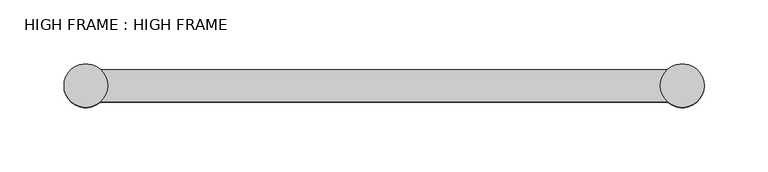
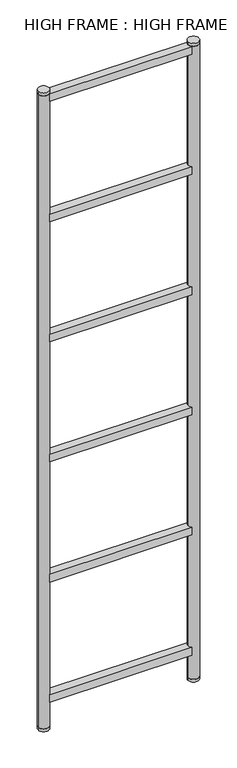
"""IFC4 building model written with IfcOpenShell, lengths in millimetres: furniture geometry, HIGH FRAME : HIGH FRAME."""

from ifc_helpers import new_model, si_unit, point, frame, frame_2d, origin, origin_with_axes, place, context, project, spatial, polyline, circle_curve, trimmed, segment, composite_curve, outline, extrude, source, transform, mapped, element, save


def high_frame_high_frame_5bb0b036(model_context):
    return source(origin(), model_context, "Body", "SweptSolid", [
        extrude(outline(composite_curve([segment(polyline([(224.9782814, -12.5), (-217.9782814, -12.5)]), True, "CONTINUOUS"), segment(trimmed(circle_curve(frame_2d((-229.5, 0.0)), 17.0), [point((-217.9782814, -12.5))], [point((-217.9782814, 12.5))], True, "CARTESIAN"), True, "CONTINUOUS"), segment(polyline([(-217.9782814, 12.5), (224.9782814, 12.5)]), True, "CONTINUOUS"), segment(trimmed(circle_curve(frame_2d((236.5, 0.0)), 17.0), [point((224.9782814, 12.5))], [point((224.9782814, -12.5))], True, "CARTESIAN"), True, "CONTINUOUS")], self_intersect=False)), frame((0.0, 0.0, 2064.0), z_axis=(0.0, 0.0, 1.0), x_axis=(1.0, 0.0, 0.0)), (0.0, 0.0, 1.0), 25.0),
        extrude(outline(composite_curve([segment(polyline([(224.9782814, -12.5), (-217.9782814, -12.5)]), True, "CONTINUOUS"), segment(trimmed(circle_curve(frame_2d((-229.5, 0.0)), 17.0), [point((-217.9782814, -12.5))], [point((-217.9782814, 12.5))], True, "CARTESIAN"), True, "CONTINUOUS"), segment(polyline([(-217.9782814, 12.5), (224.9782814, 12.5)]), True, "CONTINUOUS"), segment(trimmed(circle_curve(frame_2d((236.5, 0.0)), 17.0), [point((224.9782814, 12.5))], [point((224.9782814, -12.5))], True, "CARTESIAN"), True, "CONTINUOUS")], self_intersect=False)), frame((0.0, 0.0, 1669.0), z_axis=(0.0, 0.0, 1.0), x_axis=(1.0, 0.0, 0.0)), (0.0, 0.0, 1.0), 25.0),
        extrude(outline(composite_curve([segment(polyline([(224.9782814, -12.5), (-217.9782814, -12.5)]), True, "CONTINUOUS"), segment(trimmed(circle_curve(frame_2d((-229.5, 0.0)), 17.0), [point((-217.9782814, -12.5))], [point((-217.9782814, 12.5))], True, "CARTESIAN"), True, "CONTINUOUS"), segment(polyline([(-217.9782814, 12.5), (224.9782814, 12.5)]), True, "CONTINUOUS"), segment(trimmed(circle_curve(frame_2d((236.5, 0.0)), 17.0), [point((224.9782814, 12.5))], [point((224.9782814, -12.5))], True, "CARTESIAN"), True, "CONTINUOUS")], self_intersect=False)), frame((0.0, 0.0, 1274.0), z_axis=(0.0, 0.0, 1.0), x_axis=(1.0, 0.0, 0.0)), (0.0, 0.0, 1.0), 25.0),
        extrude(outline(composite_curve([segment(polyline([(224.9782814, -12.5), (-217.9782814, -12.5)]), True, "CONTINUOUS"), segment(trimmed(circle_curve(frame_2d((-229.5, 0.0)), 17.0), [point((-217.9782814, -12.5))], [point((-217.9782814, 12.5))], True, "CARTESIAN"), True, "CONTINUOUS"), segment(polyline([(-217.9782814, 12.5), (224.9782814, 12.5)]), True, "CONTINUOUS"), segment(trimmed(circle_curve(frame_2d((236.5, 0.0)), 17.0), [point((224.9782814, 12.5))], [point((224.9782814, -12.5))], True, "CARTESIAN"), True, "CONTINUOUS")], self_intersect=False)), frame((0.0, 0.0, 879.0), z_axis=(0.0, 0.0, 1.0), x_axis=(1.0, 0.0, 0.0)), (0.0, 0.0, 1.0), 25.0),
        extrude(outline(composite_curve([segment(polyline([(224.9782814, -12.5), (-217.9782814, -12.5)]), True, "CONTINUOUS"), segment(trimmed(circle_curve(frame_2d((-229.5, 0.0)), 17.0), [point((-217.9782814, -12.5))], [point((-217.9782814, 12.5))], True, "CARTESIAN"), True, "CONTINUOUS"), segment(polyline([(-217.9782814, 12.5), (224.9782814, 12.5)]), True, "CONTINUOUS"), segment(trimmed(circle_curve(frame_2d((236.5, 0.0)), 17.0), [point((224.9782814, 12.5))], [point((224.9782814, -12.5))], True, "CARTESIAN"), True, "CONTINUOUS")], self_intersect=False)), frame((0.0, 0.0, 484.0), z_axis=(0.0, 0.0, 1.0), x_axis=(1.0, 0.0, 0.0)), (0.0, 0.0, 1.0), 25.0),
        extrude(outline(composite_curve([segment(polyline([(224.9782814, -12.5), (-217.9782814, -12.5)]), True, "CONTINUOUS"), segment(trimmed(circle_curve(frame_2d((-229.5, 0.0)), 17.0), [point((-217.9782814, -12.5))], [point((-217.9782814, 12.5))], True, "CARTESIAN"), True, "CONTINUOUS"), segment(polyline([(-217.9782814, 12.5), (224.9782814, 12.5)]), True, "CONTINUOUS"), segment(trimmed(circle_curve(frame_2d((236.5, 0.0)), 17.0), [point((224.9782814, 12.5))], [point((224.9782814, -12.5))], True, "CARTESIAN"), True, "CONTINUOUS")], self_intersect=False)), frame((0.0, 0.0, 89.0), z_axis=(0.0, 0.0, 1.0), x_axis=(1.0, 0.0, 0.0)), (0.0, 0.0, 1.0), 25.0),
        extrude(outline(composite_curve([segment(trimmed(circle_curve(frame_2d((-229.5, 0.0)), 17.0), [point((-212.5, 0.0))], [point((-246.5, 0.0))], False, "CARTESIAN"), True, "CONTINUOUS"), segment(trimmed(circle_curve(frame_2d((-229.5, 0.0)), 17.0), [point((-246.5, 0.0))], [point((-212.5, 0.0))], False, "CARTESIAN"), True, "CONTINUOUS")], self_intersect=False)), frame((0.0, 0.0, 2091.0), z_axis=(0.0, 0.0, 1.0), x_axis=(1.0, 0.0, 0.0)), (0.0, 0.0, 1.0), 9.0),
        extrude(outline(composite_curve([segment(trimmed(circle_curve(frame_2d((-229.5, 0.0)), 17.0), [point((-212.5, 0.0))], [point((-246.5, 0.0))], False, "CARTESIAN"), True, "CONTINUOUS"), segment(trimmed(circle_curve(frame_2d((-229.5, 0.0)), 17.0), [point((-246.5, 0.0))], [point((-212.5, 0.0))], False, "CARTESIAN"), True, "CONTINUOUS")], self_intersect=False)), origin_with_axes(), (0.0, 0.0, 1.0), 9.0),
        extrude(outline(composite_curve([segment(trimmed(circle_curve(frame_2d((-229.5, 0.0)), 17.0), [point((-212.5, 0.0))], [point((-246.5, 0.0))], False, "CARTESIAN"), True, "CONTINUOUS"), segment(trimmed(circle_curve(frame_2d((-229.5, 0.0)), 17.0), [point((-246.5, 0.0))], [point((-212.5, 0.0))], False, "CARTESIAN"), True, "CONTINUOUS")], self_intersect=False)), frame((0.0, 0.0, 9.0), z_axis=(0.0, 0.0, 1.0), x_axis=(1.0, 0.0, 0.0)), (0.0, 0.0, 1.0), 2082.0),
        extrude(outline(composite_curve([segment(trimmed(circle_curve(frame_2d((236.5, 0.0)), 17.0), [point((219.5, 0.0))], [point((253.5, 0.0))], False, "CARTESIAN"), True, "CONTINUOUS"), segment(trimmed(circle_curve(frame_2d((236.5, 0.0)), 17.0), [point((253.5, 0.0))], [point((219.5, 0.0))], False, "CARTESIAN"), True, "CONTINUOUS")], self_intersect=False)), frame((0.0, 0.0, 2091.0), z_axis=(0.0, 0.0, 1.0), x_axis=(1.0, 0.0, 0.0)), (0.0, 0.0, 1.0), 9.0),
        extrude(outline(composite_curve([segment(trimmed(circle_curve(frame_2d((236.5, 0.0)), 17.0), [point((219.5, 0.0))], [point((253.5, 0.0))], False, "CARTESIAN"), True, "CONTINUOUS"), segment(trimmed(circle_curve(frame_2d((236.5, 0.0)), 17.0), [point((253.5, 0.0))], [point((219.5, 0.0))], False, "CARTESIAN"), True, "CONTINUOUS")], self_intersect=False)), origin_with_axes(), (0.0, 0.0, 1.0), 9.0),
        extrude(outline(composite_curve([segment(trimmed(circle_curve(frame_2d((236.5, 0.0)), 17.0), [point((219.5, 0.0))], [point((253.5, 0.0))], False, "CARTESIAN"), True, "CONTINUOUS"), segment(trimmed(circle_curve(frame_2d((236.5, 0.0)), 17.0), [point((253.5, 0.0))], [point((219.5, 0.0))], False, "CARTESIAN"), True, "CONTINUOUS")], self_intersect=False)), frame((0.0, 0.0, 9.0), z_axis=(0.0, 0.0, 1.0), x_axis=(1.0, 0.0, 0.0)), (0.0, 0.0, 1.0), 2082.0),
    ])


if __name__ == "__main__":
    model = new_model("IFC4")
    model_context = context("Model", 3, world=origin())
    ifc_project = project(units=[si_unit("LENGTHUNIT", "METRE", prefix="MILLI")], contexts=[model_context])
    site = spatial("IfcSite", under=ifc_project)
    building = spatial("IfcBuilding", under=site)
    placement = place(None, origin())
    high_frame_high_frame_shape = high_frame_high_frame_5bb0b036(model_context)
    element("IfcFurniture", 1, ObjectType="HIGH FRAME : HIGH FRAME", at=placement, inside=building, context=model_context, shape_type="MappedRepresentation", body=[
        mapped(high_frame_high_frame_shape, transform((0.0, 0.0, 0.0), x_axis=(1.0, 0.0, 0.0), y_axis=(0.0, 1.0, 0.0), z_axis=(0.0, 0.0, 1.0))),
    ])
    save(model, "model.ifc")
